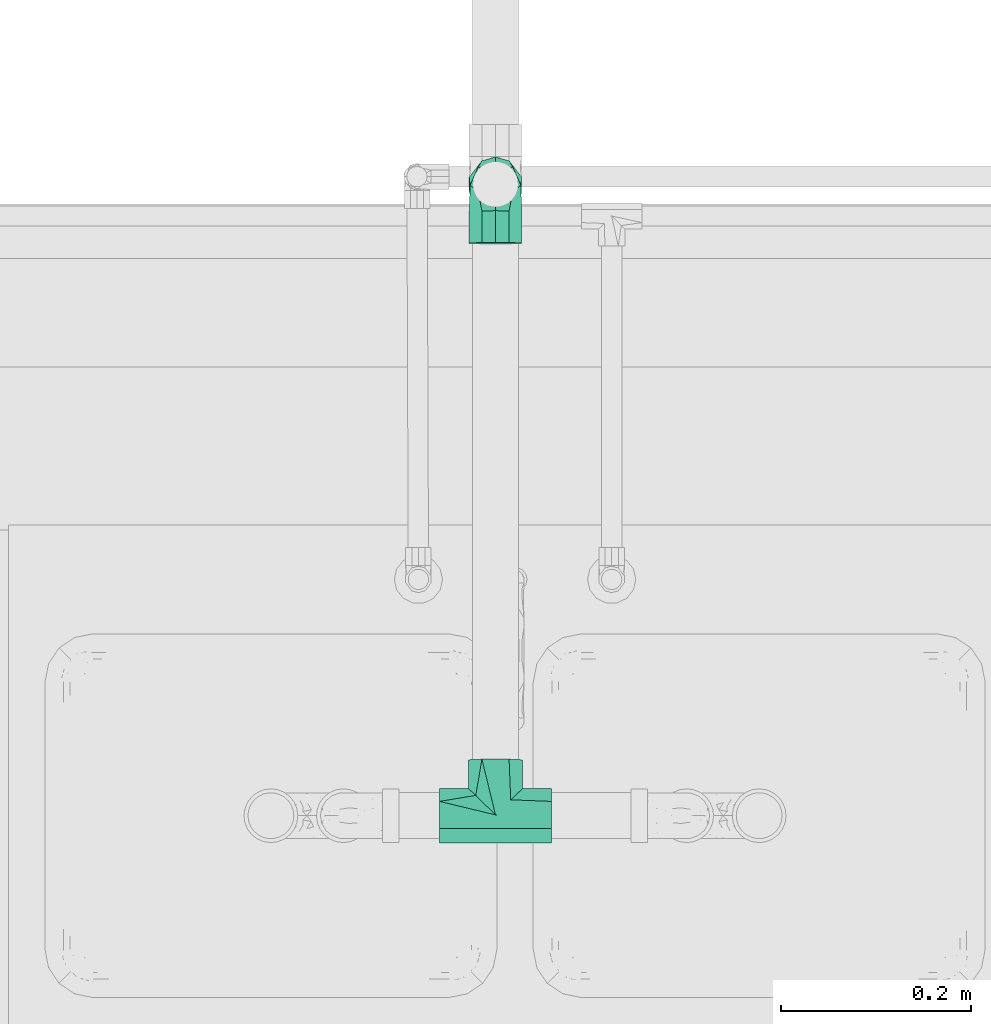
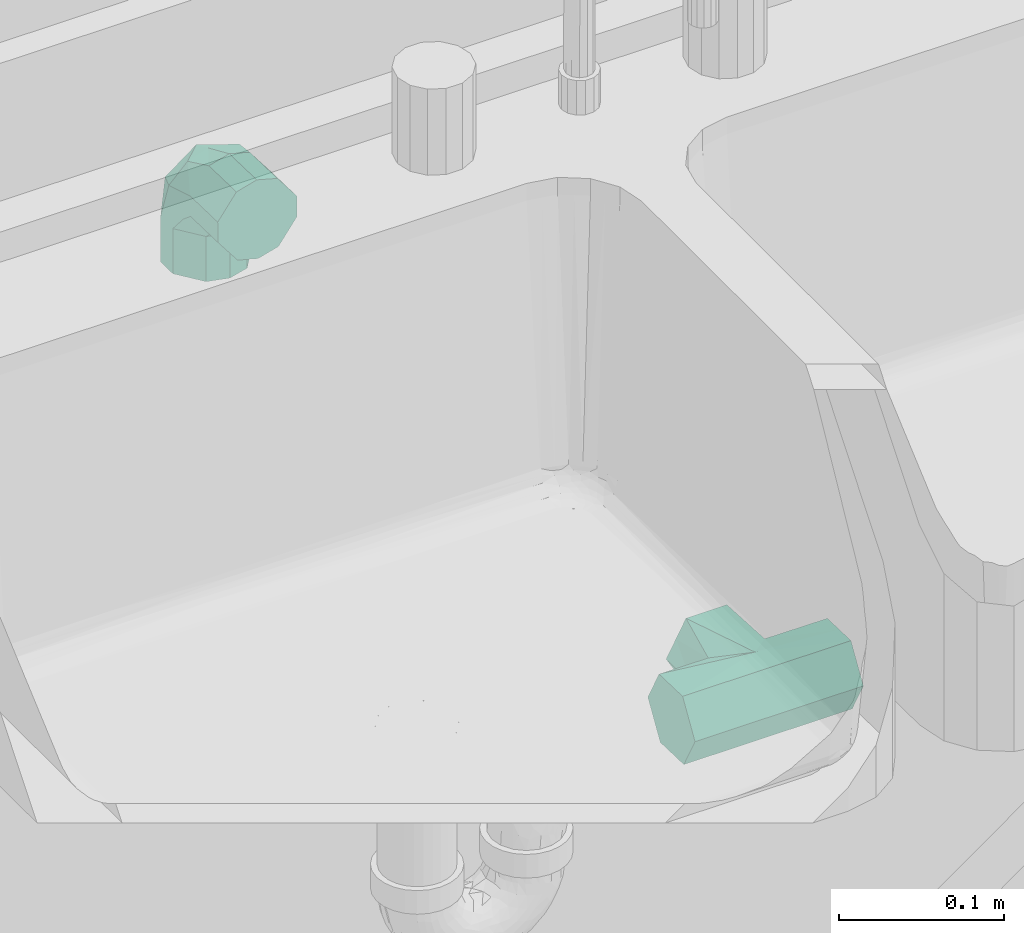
# One storey, part 33 of 41: 2 flow fittings.
"""IFC2X3 building model written with IfcOpenShell, lengths in millimetres."""

from ifc_helpers import new_model, entity, si_unit, converted_unit, derived_unit, direction, frame, origin, place, context, subcontext, project, spatial, faceted_brep, source, transform, mapped, type_object, type_shapes, element, save


model = new_model("IFC2X3")

# Units and contexts
model_context = context("Model", 3, precision=0.01, world=origin(), true_north=direction((6.12303176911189e-17, 1.0)))
body_context = subcontext(model_context, "Body", "Model", "MODEL_VIEW")
ifc_project = project(units=[si_unit("LENGTHUNIT", "METRE", prefix="MILLI"), si_unit("AREAUNIT", "SQUARE_METRE"), si_unit("VOLUMEUNIT", "CUBIC_METRE"), converted_unit("PLANEANGLEUNIT", "DEGREE", entity("IfcRatioMeasure", 0.0174532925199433), si_unit("PLANEANGLEUNIT", "RADIAN"), dimensions=[0, 0, 0, 0, 0, 0, 0]), si_unit("MASSUNIT", "GRAM", prefix="KILO"), derived_unit("MASSDENSITYUNIT", [(si_unit("MASSUNIT", "GRAM", prefix="KILO"), 1), (si_unit("LENGTHUNIT", "METRE"), -3)]), si_unit("TIMEUNIT", "SECOND"), si_unit("FREQUENCYUNIT", "HERTZ"), si_unit("THERMODYNAMICTEMPERATUREUNIT", "DEGREE_CELSIUS"), derived_unit("THERMALTRANSMITTANCEUNIT", [(si_unit("MASSUNIT", "GRAM", prefix="KILO"), 1), (si_unit("THERMODYNAMICTEMPERATUREUNIT", "KELVIN"), -1), (si_unit("TIMEUNIT", "SECOND"), -3)]), derived_unit("VOLUMETRICFLOWRATEUNIT", [(si_unit("LENGTHUNIT", "METRE"), 3), (si_unit("TIMEUNIT", "SECOND"), -1)]), si_unit("ELECTRICCURRENTUNIT", "AMPERE"), si_unit("ELECTRICVOLTAGEUNIT", "VOLT"), si_unit("POWERUNIT", "WATT"), si_unit("FORCEUNIT", "NEWTON", prefix="KILO"), si_unit("ILLUMINANCEUNIT", "LUX"), si_unit("LUMINOUSFLUXUNIT", "LUMEN"), si_unit("LUMINOUSINTENSITYUNIT", "CANDELA"), derived_unit("USERDEFINED", [(si_unit("MASSUNIT", "GRAM", prefix="KILO"), -1), (si_unit("LENGTHUNIT", "METRE"), -2), (si_unit("TIMEUNIT", "SECOND"), 3), (si_unit("LUMINOUSFLUXUNIT", "LUMEN"), 1)]), derived_unit("LINEARVELOCITYUNIT", [(si_unit("LENGTHUNIT", "METRE"), 1), (si_unit("TIMEUNIT", "SECOND"), -1)]), si_unit("PRESSUREUNIT", "PASCAL"), derived_unit("USERDEFINED", [(si_unit("LENGTHUNIT", "METRE"), -2), (si_unit("MASSUNIT", "GRAM", prefix="KILO"), 1), (si_unit("TIMEUNIT", "SECOND"), -2)])], contexts=[model_context])

# Site, building, storey, space
site_placement = place(None, origin())
site = spatial("IfcSite", under=ifc_project, at=site_placement, Name="Surface", CompositionType="ELEMENT")
building_placement = place(site_placement, origin())
building = spatial("IfcBuilding", under=site, at=building_placement, CompositionType="ELEMENT")
storey_placement = place(building_placement, frame((0.0, 0.0, 300.0)))
storey = spatial("IfcBuildingStorey", under=building, at=storey_placement, Name="F.F.L", CompositionType="ELEMENT", Elevation=300.0)
space_placement = place(storey_placement, origin())
space = spatial("IfcSpace", under=storey, at=space_placement, Name="2", CompositionType="ELEMENT", InteriorOrExteriorSpace="INTERNAL")

# Flow fittings
pipe_fitting_type_1 = type_object("IfcPipeFittingType", Name="Standard", PredefinedType="NOTDEFINED")
shared_shape_1 = source(origin(), body_context, "Body", "Brep", [
    faceted_brep([(-58.7501999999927, -28.5750000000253, 0.0), (-58.7501999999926, -25.0031250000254, 6.18666897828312), (-58.7501999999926, -21.4312500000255, 12.3733379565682), (-58.7501999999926, -14.2875000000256, 24.7466759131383), (-58.7501999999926, 0.0, 24.7466759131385), (-58.7501999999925, 14.2874999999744, 24.7466759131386), (-58.7501999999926, 21.4312499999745, 12.3733379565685), (-58.7501999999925, 28.5749999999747, 0.0), (-58.7501999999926, 21.4312499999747, -12.373337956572), (-58.7501999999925, 14.2874999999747, -24.7466759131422), (-58.7501999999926, 0.0, -24.7466759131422), (-58.7501999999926, -14.2875000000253, -24.7466759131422), (-58.7501999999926, -21.4312500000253, -12.3733379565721), (58.7502000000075, 14.287499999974, 24.7466759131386), (58.7502000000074, 0.0, 24.7466759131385), (58.7502000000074, -14.287500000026, 24.7466759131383), (58.7502000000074, -21.4312500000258, 12.3733379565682), (58.7502000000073, -28.5750000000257, 0.0), (58.7502000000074, -25.0031250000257, -6.18666897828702), (58.7502000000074, -21.4312500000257, -12.3733379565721), (58.7502000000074, -14.2875000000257, -24.7466759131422), (58.7502000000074, 0.0, -24.7466759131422), (58.7502000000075, 14.2874999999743, -24.7466759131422), (58.7502000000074, 23.1567516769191, -9.3846813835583), (58.7502000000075, 28.5749999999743, 0.0), (58.7502000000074, 21.4312499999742, 12.3733379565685), (24.6549943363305, -24.6549943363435, 9.83095709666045), (20.7349886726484, -20.7349886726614, 19.6619141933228), (0.0, 0.0, 28.5749999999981), (-23.4941096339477, -23.4941096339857, 9.5734436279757), (-22.2951002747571, -22.2951002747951, 11.8326241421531), (-16.0152005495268, -16.0152005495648, 23.6652482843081), (28.5750000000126, -28.5750000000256, 0.0), (-28.5749999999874, -28.5750000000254, 0.0), (23.4941103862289, -23.4941103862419, -9.57344221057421), (22.2951002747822, -22.2951002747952, -11.8326241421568), (16.0152005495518, -16.0152005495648, -23.6652482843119), (-24.6549943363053, -24.6549943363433, -9.83095709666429), (0.0, 0.0, -28.5750000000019), (-20.7349886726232, -20.7349886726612, -19.6619141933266), (14.2875000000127, -58.7502000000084, -24.7466759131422), (23.1567518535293, -58.7502000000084, -9.38468107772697), (28.5750000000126, -58.7502000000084, 0.0), (21.4312500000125, -58.7502000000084, 12.3733379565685), (14.2875000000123, -58.7502000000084, 24.7466759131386), (0.0, -58.7502000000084, 24.7466759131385), (-14.2874999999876, -58.7502000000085, 24.7466759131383), (-23.1567519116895, -58.7502000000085, 9.38468097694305), (-28.5749999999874, -58.7502000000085, 0.0), (-21.4312499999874, -58.7502000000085, -12.3733379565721), (-14.2874999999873, -58.7502000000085, -24.7466759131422), (0.0, -58.7502000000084, -24.7466759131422)], [[[0, 1, 2, 3, 4, 5, 6, 7, 8, 9, 10, 11, 12]], [[13, 14, 15, 16, 17, 18, 19, 20, 21, 22, 23, 24, 25]], [[26, 17, 16]], [[27, 16, 15]], [[28, 15, 14, 13]], [[2, 29, 30, 31]], [[3, 2, 31]], [[16, 27, 26]], [[17, 26, 32]], [[0, 33, 1]], [[15, 28, 27]], [[7, 6, 5, 13, 25, 24]], [[33, 29, 1]], [[31, 4, 3]], [[31, 28, 4]], [[5, 28, 13]], [[29, 2, 1]], [[28, 5, 4]], [[9, 8, 7, 24, 23, 22]], [[19, 34, 35, 36]], [[0, 37, 33]], [[9, 22, 38]], [[12, 39, 37]], [[10, 9, 38, 11]], [[34, 19, 18]], [[21, 20, 36]], [[32, 18, 17]], [[36, 20, 19]], [[39, 11, 38]], [[12, 37, 0]], [[32, 34, 18]], [[38, 22, 21]], [[39, 12, 11]], [[36, 38, 21]], [[40, 41, 42, 43, 44, 45, 46, 47, 48, 49, 50, 51]], [[30, 46, 31]], [[33, 48, 47]], [[47, 30, 29, 33]], [[31, 46, 45]], [[27, 44, 43]], [[32, 43, 42]], [[46, 30, 47]], [[31, 45, 28]], [[43, 32, 26, 27]], [[28, 45, 44]], [[28, 44, 27]], [[35, 40, 36]], [[38, 50, 39]], [[40, 35, 41]], [[41, 35, 34, 32]], [[36, 40, 51]], [[33, 49, 48]], [[32, 42, 41]], [[39, 50, 49]], [[36, 51, 38]], [[49, 33, 37, 39]], [[38, 51, 50]]]),
])
type_shapes(pipe_fitting_type_1, [shared_shape_1])
flow_fitting_1_placement = place(space_placement, frame((-7257.42092415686, 10220.2400891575, 601.60607403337), z_axis=(0.0, 0.0301676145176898, 0.999544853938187), x_axis=(-1.0, 0.0, 0.0)))
element("IfcFlowFitting", 1, at=flow_fitting_1_placement, inside=space, type_object=pipe_fitting_type_1, Name="M_Tee - PVC - Sch 40:Standard", ObjectType="Standard", context=body_context, shape_type="MappedRepresentation", body=[
    mapped(shared_shape_1, transform((0.0, 0.0, 0.0), scale=1.0)),
])
pipe_fitting_type_2 = type_object("IfcPipeFittingType", Name="Standard", PredefinedType="NOTDEFINED")
shared_shape_2 = source(origin(), body_context, "Body", "Brep", [
    faceted_brep([(-61.92225123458, 7.39575421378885, -27.601330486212), (-61.9222512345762, -7.3957542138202, -27.601330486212), (-61.9222512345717, -24.746675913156, -14.2875000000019), (-61.9222512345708, -28.5750000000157, 0.0), (-61.9222512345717, -24.7466759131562, 14.2874999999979), (-61.9222512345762, -7.39575421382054, 27.6013304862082), (-61.92225123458, 7.39575421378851, 27.6013304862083), (-61.9222512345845, 24.7466759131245, 14.2874999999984), (-61.9222512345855, 28.5749999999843, 0.0), (-61.9222512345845, 24.7466759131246, -14.2875000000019), (-28.5720512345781, -28.5750000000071, 0.0), (-28.5720512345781, -24.7466759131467, 14.2874999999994), (-28.5720512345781, -7.39575421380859, 27.6013304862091), (-28.5720512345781, 7.39575421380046, 27.6013304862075), (9.09552538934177, 61.6954925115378, 27.6013304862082), (-5.69039087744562, 62.1021886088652, 27.6013304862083), (-6.60736268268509, 28.7645971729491, 27.6013304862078), (8.17855358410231, 28.3579010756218, 27.6013304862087), (-28.5720512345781, 24.746675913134, 14.2874999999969), (-28.5720512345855, 28.5749999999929, 0.0), (-28.5720512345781, 24.7466759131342, -14.2875000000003), (-28.5720512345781, 7.39575421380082, -27.6013304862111), (-28.5720512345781, -7.39575421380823, -27.6013304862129), (-5.69039087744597, 62.1021886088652, -27.601330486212), (9.09552538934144, 61.6954925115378, -27.601330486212), (8.17855358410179, 28.3579010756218, -27.6013304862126), (-6.60736268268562, 28.7645971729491, -27.6013304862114), (-28.5720512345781, -24.7466759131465, -14.2875000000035), (-0.909030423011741, 0.934374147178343, 26.6533773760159), (-9.38826519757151, -18.3971991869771, 18.1073269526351), (-2.74960221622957, -18.0863828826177, 0.0), (11.8331680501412, -12.1631223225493, 0.0), (18.6483754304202, 8.87887751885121, 18.1073267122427), (-28.0185550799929, 28.7998202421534, 0.0), (-23.9517245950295, 29.2416649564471, 14.2874999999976), (-16.4932212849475, 16.9531154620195, 25.9114369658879), (18.1551456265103, 2.25127232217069, 0.0), (29.3497922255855, 27.7755725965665, 0.0), (25.5229154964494, 27.8808332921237, 14.2874999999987), (-27.7786013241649, 29.3469256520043, 0.0), (-9.38826502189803, -18.3971991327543, -18.1073269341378), (-16.4932209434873, 16.953115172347, -25.9114371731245), (-23.9517245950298, 29.2416649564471, -14.2875000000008), (-0.909029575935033, 0.934374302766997, -26.6533771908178), (18.6483751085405, 8.8788776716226, -18.1073271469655), (25.5229154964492, 27.8808332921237, -14.2875000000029), (-23.0347527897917, 62.5792563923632, -14.2875000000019), (-26.8616295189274, 62.6845170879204, 0.0), (-23.0347527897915, 62.5792563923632, 14.2874999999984), (26.4398873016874, 61.2184247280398, 14.2874999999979), (30.266764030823, 61.1131640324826, 0.0), (26.4398873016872, 61.2184247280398, -14.2875000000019)], [[[0, 1, 2, 3, 4, 5, 6, 7, 8, 9]], [[3, 10, 11, 4]], [[4, 11, 12, 5]], [[12, 13, 6, 5]], [[14, 15, 16, 17]], [[6, 13, 18, 7]], [[7, 18, 19, 8]], [[8, 19, 20, 9]], [[9, 20, 21, 0]], [[21, 22, 1, 0]], [[23, 24, 25, 26]], [[1, 22, 27, 2]], [[2, 27, 10, 3]], [[12, 28, 13]], [[29, 11, 30]], [[31, 29, 30]], [[17, 28, 32]], [[29, 12, 11]], [[33, 18, 34]], [[31, 32, 28]], [[33, 19, 18]], [[18, 13, 35]], [[11, 10, 30]], [[28, 29, 31]], [[36, 37, 38]], [[28, 35, 13]], [[28, 12, 29]], [[32, 36, 38]], [[18, 35, 34]], [[33, 34, 39]], [[32, 38, 17]], [[34, 35, 16]], [[28, 16, 35]], [[32, 31, 36]], [[16, 28, 17]], [[40, 31, 30]], [[40, 27, 22]], [[41, 20, 42]], [[41, 43, 21]], [[10, 27, 30]], [[43, 25, 44]], [[27, 40, 30]], [[43, 22, 21]], [[31, 40, 43]], [[43, 41, 26]], [[20, 19, 33]], [[33, 39, 42]], [[31, 44, 36]], [[22, 43, 40]], [[42, 26, 41]], [[45, 36, 44]], [[45, 37, 36]], [[31, 43, 44]], [[20, 41, 21]], [[44, 25, 45]], [[26, 25, 43]], [[42, 20, 33]], [[23, 46, 47, 48, 15, 14, 49, 50, 51, 24]], [[37, 50, 49, 38]], [[38, 49, 14, 17]], [[16, 15, 48, 34]], [[34, 48, 47, 39]], [[39, 47, 46, 42]], [[42, 46, 23, 26]], [[25, 24, 51, 45]], [[45, 51, 50, 37]]]),
])
type_shapes(pipe_fitting_type_2, [shared_shape_2])
flow_fitting_2_placement = place(storey_placement, frame((-7257.42092415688, 10884.1636765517, 583.18730351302), z_axis=(-1.0, 0.0, 0.0), x_axis=(0.0, 0.999621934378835, -0.0274952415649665)))
element("IfcFlowFitting", 2, at=flow_fitting_2_placement, inside=storey, type_object=pipe_fitting_type_2, Name="M_Elbow - PVC - Sch 40:Standard", ObjectType="Standard", context=body_context, shape_type="MappedRepresentation", body=[
    mapped(shared_shape_2, transform((0.0, 0.0, 0.0), scale=1.0)),
])

save(model, "model.ifc")
